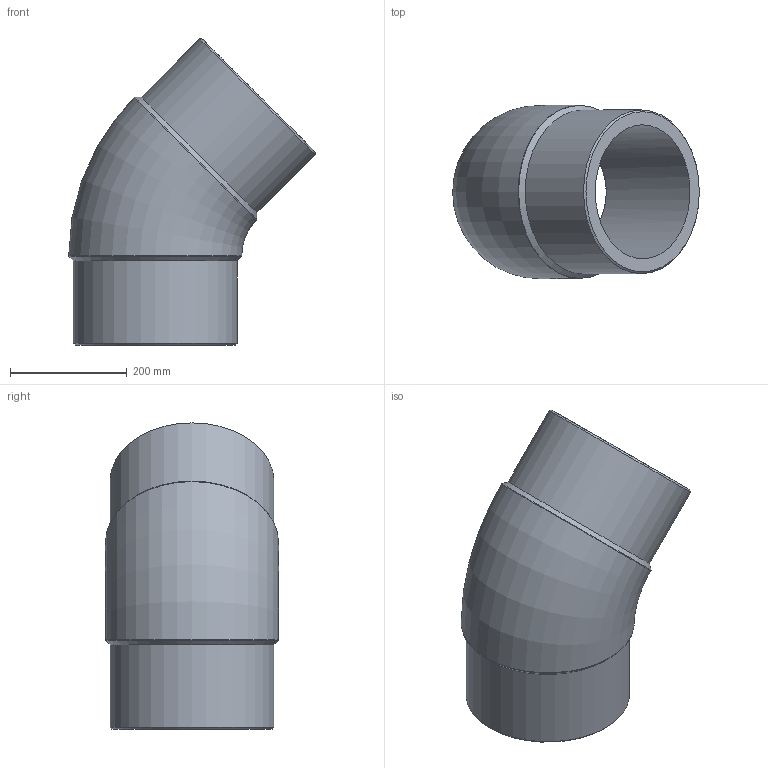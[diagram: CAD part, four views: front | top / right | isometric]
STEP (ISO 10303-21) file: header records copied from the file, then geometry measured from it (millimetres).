
FILE_DESCRIPTION(/* description */ ('Unknown'),/* implementation_level */ '2;1');
FILE_NAME(/* name */ 'G4P280C',/* time_stamp */ '2022-01-19T15:08:42+01:00',/* author */ ('Unknown'),/* organization */ ('Unknown'),/* preprocessor_version */ 'ST-DEVELOPER v18.1',/* originating_system */ 'Solid Edge',/* authorisation */ 'Unknown');
FILE_SCHEMA (('AUTOMOTIVE_DESIGN {1 0 10303 214 3 1 1}'));
Length unit declared in the file: millimetre
Products named in the file (1): G4P280C
Bounding box: 421.65 x 296 x 523.65 mm (x, y, z)
Volume: 11454234.1 mm3; surface area: 837128.2 mm2
Topology: 1 solids, 1 shells, 14 faces, 34 edges, 22 vertices
Faces by surface type: cylinder 6, cone 4, plane 2, torus 2
Full cylindrical faces by diameter (mm): 229.2 x2, 280 x2, 296 x2
Entity records: 368 total; most frequent: CARTESIAN_POINT 68, DIRECTION 60, ORIENTED_EDGE 38, AXIS2_PLACEMENT_3D 30, EDGE_LOOP 27, FACE_BOUND 27, EDGE_CURVE 19, VERTEX_POINT 18
